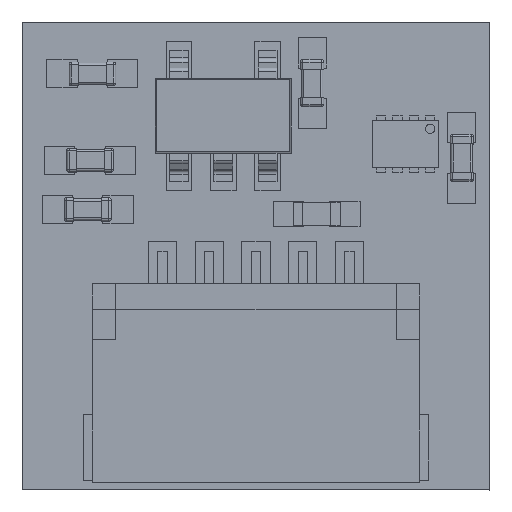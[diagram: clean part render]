
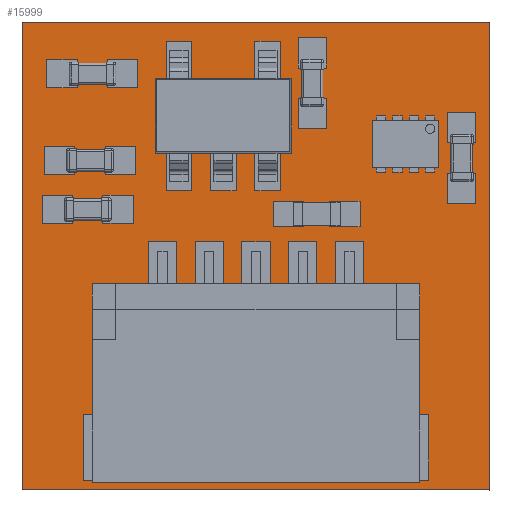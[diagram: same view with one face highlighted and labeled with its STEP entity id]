
A CAD part, top view. The second image highlights one B-rep face of the part: STEP entity #15999.
In plain terms, the highlighted planar face has unit normal (0, 0, 1).
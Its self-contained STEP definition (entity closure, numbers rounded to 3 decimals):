
#15685 = VERTEX_POINT('',#15686);
#15686 = CARTESIAN_POINT('',(15.,14.01,0.6));
#15693 = PLANE('',#15694);
#15694 = AXIS2_PLACEMENT_3D('',#15695,#15696,#15697);
#15695 = CARTESIAN_POINT('',(15.,14.01,0.));
#15696 = DIRECTION('',(0.001,1.,0.));
#15697 = DIRECTION('',(1.,-0.001,0.));
#15705 = PLANE('',#15706);
#15706 = AXIS2_PLACEMENT_3D('',#15707,#15708,#15709);
#15707 = CARTESIAN_POINT('',(15.,24.01,0.));
#15708 = DIRECTION('',(1.,0.,0.));
#15709 = DIRECTION('',(0.,-1.,0.));
#15717 = EDGE_CURVE('',#15685,#15718,#15720,.T.);
#15718 = VERTEX_POINT('',#15719);
#15719 = CARTESIAN_POINT('',(25.,14.,0.6));
#15720 = SURFACE_CURVE('',#15721,(#15725,#15732),.PCURVE_S1.);
#15721 = LINE('',#15722,#15723);
#15722 = CARTESIAN_POINT('',(15.,14.01,0.6));
#15723 = VECTOR('',#15724,1.);
#15724 = DIRECTION('',(1.,-0.001,0.));
#15725 = PCURVE('',#15693,#15726);
#15726 = DEFINITIONAL_REPRESENTATION('',(#15727),#15731);
#15727 = LINE('',#15728,#15729);
#15728 = CARTESIAN_POINT('',(0.,-0.6));
#15729 = VECTOR('',#15730,1.);
#15730 = DIRECTION('',(1.,0.));
#15731 = ( GEOMETRIC_REPRESENTATION_CONTEXT(2) 
PARAMETRIC_REPRESENTATION_CONTEXT() REPRESENTATION_CONTEXT('2D SPACE',''
  ) );
#15732 = PCURVE('',#15733,#15738);
#15733 = PLANE('',#15734);
#15734 = AXIS2_PLACEMENT_3D('',#15735,#15736,#15737);
#15735 = CARTESIAN_POINT('',(20.,19.005,0.6));
#15736 = DIRECTION('',(0.,0.,1.));
#15737 = DIRECTION('',(1.,0.,-0.));
#15738 = DEFINITIONAL_REPRESENTATION('',(#15739),#15743);
#15739 = LINE('',#15740,#15741);
#15740 = CARTESIAN_POINT('',(-5.,-4.995));
#15741 = VECTOR('',#15742,1.);
#15742 = DIRECTION('',(1.,-0.001));
#15743 = ( GEOMETRIC_REPRESENTATION_CONTEXT(2) 
PARAMETRIC_REPRESENTATION_CONTEXT() REPRESENTATION_CONTEXT('2D SPACE',''
  ) );
#15761 = PLANE('',#15762);
#15762 = AXIS2_PLACEMENT_3D('',#15763,#15764,#15765);
#15763 = CARTESIAN_POINT('',(25.,14.,0.));
#15764 = DIRECTION('',(-1.,0.,0.));
#15765 = DIRECTION('',(0.,1.,0.));
#15803 = EDGE_CURVE('',#15718,#15804,#15806,.T.);
#15804 = VERTEX_POINT('',#15805);
#15805 = CARTESIAN_POINT('',(25.,24.,0.6));
#15806 = SURFACE_CURVE('',#15807,(#15811,#15818),.PCURVE_S1.);
#15807 = LINE('',#15808,#15809);
#15808 = CARTESIAN_POINT('',(25.,14.,0.6));
#15809 = VECTOR('',#15810,1.);
#15810 = DIRECTION('',(0.,1.,0.));
#15811 = PCURVE('',#15761,#15812);
#15812 = DEFINITIONAL_REPRESENTATION('',(#15813),#15817);
#15813 = LINE('',#15814,#15815);
#15814 = CARTESIAN_POINT('',(0.,-0.6));
#15815 = VECTOR('',#15816,1.);
#15816 = DIRECTION('',(1.,0.));
#15817 = ( GEOMETRIC_REPRESENTATION_CONTEXT(2) 
PARAMETRIC_REPRESENTATION_CONTEXT() REPRESENTATION_CONTEXT('2D SPACE',''
  ) );
#15818 = PCURVE('',#15733,#15819);
#15819 = DEFINITIONAL_REPRESENTATION('',(#15820),#15824);
#15820 = LINE('',#15821,#15822);
#15821 = CARTESIAN_POINT('',(5.,-5.005));
#15822 = VECTOR('',#15823,1.);
#15823 = DIRECTION('',(0.,1.));
#15824 = ( GEOMETRIC_REPRESENTATION_CONTEXT(2) 
PARAMETRIC_REPRESENTATION_CONTEXT() REPRESENTATION_CONTEXT('2D SPACE',''
  ) );
#15842 = PLANE('',#15843);
#15843 = AXIS2_PLACEMENT_3D('',#15844,#15845,#15846);
#15844 = CARTESIAN_POINT('',(25.,24.,0.));
#15845 = DIRECTION('',(-0.001,-1.,0.));
#15846 = DIRECTION('',(-1.,0.001,0.));
#15879 = EDGE_CURVE('',#15804,#15880,#15882,.T.);
#15880 = VERTEX_POINT('',#15881);
#15881 = CARTESIAN_POINT('',(15.,24.01,0.6));
#15882 = SURFACE_CURVE('',#15883,(#15887,#15894),.PCURVE_S1.);
#15883 = LINE('',#15884,#15885);
#15884 = CARTESIAN_POINT('',(25.,24.,0.6));
#15885 = VECTOR('',#15886,1.);
#15886 = DIRECTION('',(-1.,0.001,0.));
#15887 = PCURVE('',#15842,#15888);
#15888 = DEFINITIONAL_REPRESENTATION('',(#15889),#15893);
#15889 = LINE('',#15890,#15891);
#15890 = CARTESIAN_POINT('',(0.,-0.6));
#15891 = VECTOR('',#15892,1.);
#15892 = DIRECTION('',(1.,0.));
#15893 = ( GEOMETRIC_REPRESENTATION_CONTEXT(2) 
PARAMETRIC_REPRESENTATION_CONTEXT() REPRESENTATION_CONTEXT('2D SPACE',''
  ) );
#15894 = PCURVE('',#15733,#15895);
#15895 = DEFINITIONAL_REPRESENTATION('',(#15896),#15900);
#15896 = LINE('',#15897,#15898);
#15897 = CARTESIAN_POINT('',(5.,4.995));
#15898 = VECTOR('',#15899,1.);
#15899 = DIRECTION('',(-1.,0.001));
#15900 = ( GEOMETRIC_REPRESENTATION_CONTEXT(2) 
PARAMETRIC_REPRESENTATION_CONTEXT() REPRESENTATION_CONTEXT('2D SPACE',''
  ) );
#15950 = EDGE_CURVE('',#15880,#15685,#15951,.T.);
#15951 = SURFACE_CURVE('',#15952,(#15956,#15963),.PCURVE_S1.);
#15952 = LINE('',#15953,#15954);
#15953 = CARTESIAN_POINT('',(15.,24.01,0.6));
#15954 = VECTOR('',#15955,1.);
#15955 = DIRECTION('',(0.,-1.,0.));
#15956 = PCURVE('',#15705,#15957);
#15957 = DEFINITIONAL_REPRESENTATION('',(#15958),#15962);
#15958 = LINE('',#15959,#15960);
#15959 = CARTESIAN_POINT('',(0.,-0.6));
#15960 = VECTOR('',#15961,1.);
#15961 = DIRECTION('',(1.,0.));
#15962 = ( GEOMETRIC_REPRESENTATION_CONTEXT(2) 
PARAMETRIC_REPRESENTATION_CONTEXT() REPRESENTATION_CONTEXT('2D SPACE',''
  ) );
#15963 = PCURVE('',#15733,#15964);
#15964 = DEFINITIONAL_REPRESENTATION('',(#15965),#15969);
#15965 = LINE('',#15966,#15967);
#15966 = CARTESIAN_POINT('',(-5.,5.005));
#15967 = VECTOR('',#15968,1.);
#15968 = DIRECTION('',(0.,-1.));
#15969 = ( GEOMETRIC_REPRESENTATION_CONTEXT(2) 
PARAMETRIC_REPRESENTATION_CONTEXT() REPRESENTATION_CONTEXT('2D SPACE',''
  ) );
#15999 = ADVANCED_FACE('',(#16000),#15733,.T.);
#16000 = FACE_BOUND('',#16001,.T.);
#16001 = EDGE_LOOP('',(#16002,#16003,#16004,#16005));
#16002 = ORIENTED_EDGE('',*,*,#15717,.T.);
#16003 = ORIENTED_EDGE('',*,*,#15803,.T.);
#16004 = ORIENTED_EDGE('',*,*,#15879,.T.);
#16005 = ORIENTED_EDGE('',*,*,#15950,.T.);
